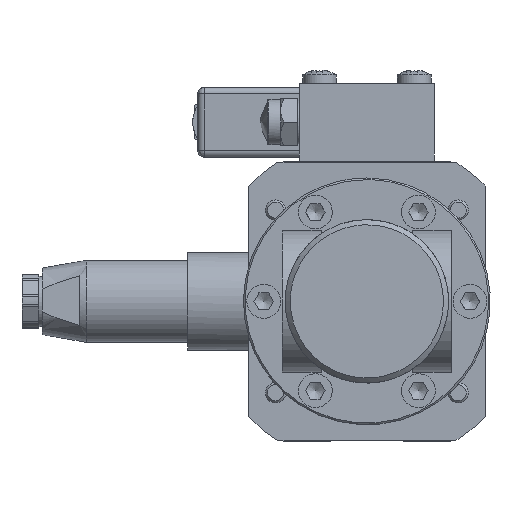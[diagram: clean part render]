
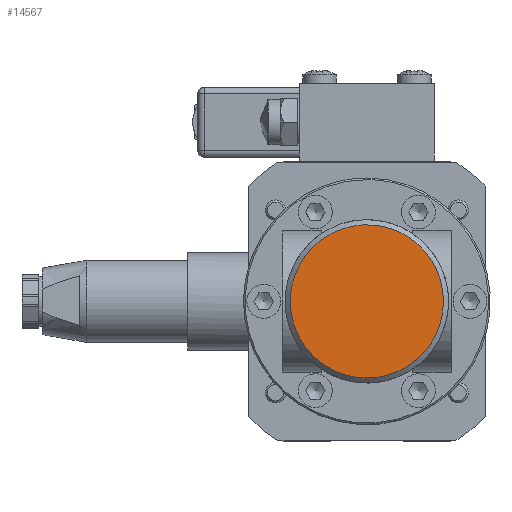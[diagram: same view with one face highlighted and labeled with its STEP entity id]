
A CAD part, left-side view. The second image highlights one B-rep face of the part: STEP entity #14567.
In plain terms, the highlighted free-form (B-spline) face has degree [1, 1] with [2, 2] control points.
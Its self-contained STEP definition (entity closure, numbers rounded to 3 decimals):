
#14512=CARTESIAN_POINT('V5',(-1.005,79.967,
   0.0));
#14513=VERTEX_POINT('V5',#14512);
#14521=CARTESIAN_POINT('E13',(-1.005,79.967,
   0.));
#14522=CARTESIAN_POINT('E13',(-1.005,79.967,
   39.231));
#14523=CARTESIAN_POINT('E13',(-1.005,45.992,
   19.615));
#14524=CARTESIAN_POINT('E13',(-1.005,12.017,
   0.));
#14525=CARTESIAN_POINT('E13',(-1.005,45.992,
   -19.615));
#14526=CARTESIAN_POINT('E13',(-1.005,79.967,
   -39.231));
#14527=CARTESIAN_POINT('E13',(-1.005,79.967,
   0.));
#14535=(BOUNDED_CURVE()B_SPLINE_CURVE(2,(#14521,#14522,#14523,
   #14524,#14525,#14526,#14527),.CIRCULAR_ARC.,.T.,.U.)
   B_SPLINE_CURVE_WITH_KNOTS((3,2,2,3),(2.0,24.363,
   46.725,69.088),.UNSPECIFIED.)CURVE()
   GEOMETRIC_REPRESENTATION_ITEM()RATIONAL_B_SPLINE_CURVE((1.0,
   0.5,1.0,0.5,1.0,0.5,1.0)
   )REPRESENTATION_ITEM('E13'));
#14536=EDGE_CURVE('E13',#14513,#14513,#14535,.T.);
#14559=CARTESIAN_POINT('F1',(-1.005,83.882,
   -26.565));
#14560=CARTESIAN_POINT('F1',(-1.005,83.882,
   26.565));
#14561=CARTESIAN_POINT('F1',(-1.005,30.752,
   -26.565));
#14562=CARTESIAN_POINT('F1',(-1.005,30.752,
   26.565));
#14563=QUASI_UNIFORM_SURFACE('F1',1,1,((#14559,#14561),(#14560,
   #14562)),.PLANE_SURF.,.F.,.F.,.U.);
#14564=ORIENTED_EDGE('E13',*,*,#14536,.F.);
#14565=EDGE_LOOP('F1',(#14564));
#14566=FACE_OUTER_BOUND('F1',#14565,.F.);
#14567=ADVANCED_FACE('F1',(#14566),#14563,.T.);
